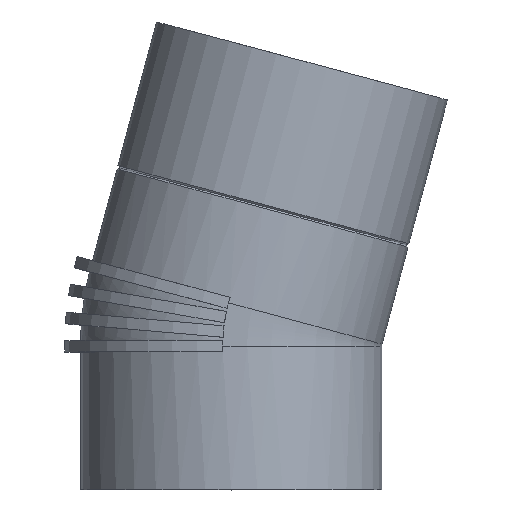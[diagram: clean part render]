
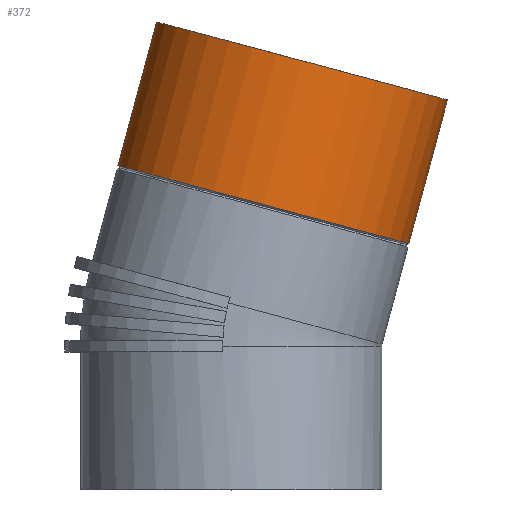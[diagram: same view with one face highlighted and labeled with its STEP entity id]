
A CAD part, top view. The second image highlights one B-rep face of the part: STEP entity #372.
In plain terms, the highlighted cylindrical face has radius 55 mm (diameter 110 mm), a full revolution.
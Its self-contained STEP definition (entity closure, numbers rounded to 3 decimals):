
#60=CYLINDRICAL_SURFACE($,#419,55.);
#74=FACE_BOUND($,#132,.T.);
#96=FACE_OUTER_BOUND($,#131,.T.);
#131=EDGE_LOOP($,(#322));
#132=EDGE_LOOP($,(#323));
#134=CIRCLE($,#378,55.);
#153=CIRCLE($,#418,55.);
#155=VERTEX_POINT($,#518);
#188=VERTEX_POINT($,#851);
#190=EDGE_CURVE($,#155,#155,#134,.T.);
#233=EDGE_CURVE($,#188,#188,#153,.T.);
#322=ORIENTED_EDGE($,*,*,#190,.T.);
#323=ORIENTED_EDGE($,*,*,#233,.T.);
#372=ADVANCED_FACE($,(#96,#74),#60,.T.);
#378=AXIS2_PLACEMENT_3D($,#519,#426,#427);
#418=AXIS2_PLACEMENT_3D($,#852,#510,#511);
#419=AXIS2_PLACEMENT_3D($,#853,#512,#513);
#426=DIRECTION('center_axis',(0.259,0.966,0.));
#427=DIRECTION('ref_axis',(0.966,-0.259,0.));
#510=DIRECTION('center_axis',(-0.259,-0.966,0.));
#511=DIRECTION('ref_axis',(0.966,-0.259,0.));
#512=DIRECTION('center_axis',(-0.259,-0.966,0.));
#513=DIRECTION('ref_axis',(0.966,-0.259,0.));
#518=CARTESIAN_POINT('',(64.937,89.845,0.));
#519=CARTESIAN_POINT('Origin',(11.811,104.08,0.));
#851=CARTESIAN_POINT('',(79.008,142.358,0.));
#852=CARTESIAN_POINT('Origin',(25.882,156.593,0.));
#853=CARTESIAN_POINT('Origin',(13.929,111.984,0.));
